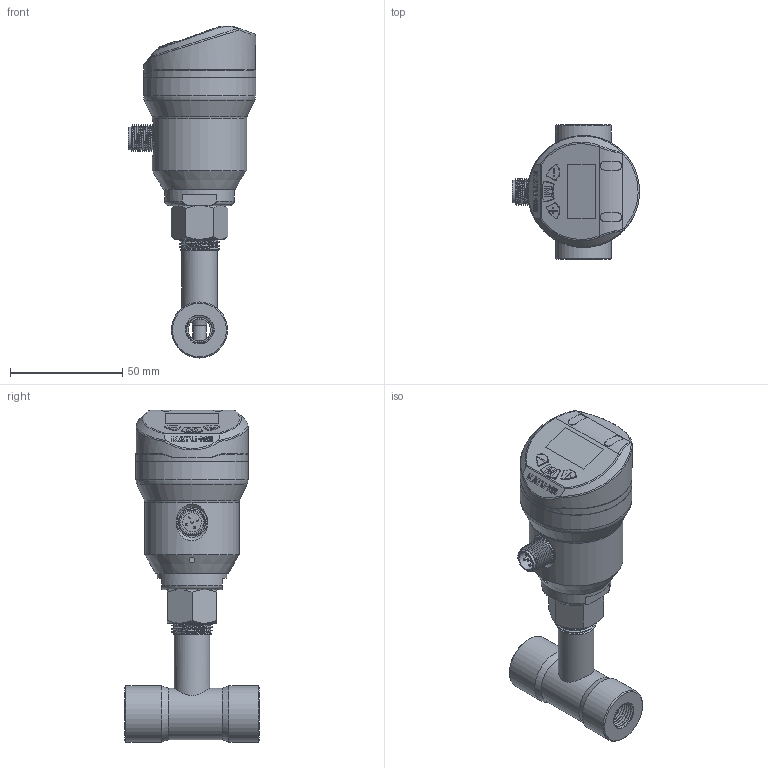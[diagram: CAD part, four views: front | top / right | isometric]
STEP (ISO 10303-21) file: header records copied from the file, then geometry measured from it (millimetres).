
FILE_DESCRIPTION( (''), '2;1');
FILE_NAME( 'QEKE_M18_L60_G1-4_tee.step', '2026-06-25T11:19:03+08:00', (''), (''), '', '', '');
FILE_SCHEMA (('AP203_CONFIGURATION_CONTROLLED_3D_DESIGN_OF_MECHANICAL_PARTS_AND_ASSEMBLIES_MIM_LF { 1 0 10303 403 2 1 2}'));
Length unit declared in the file: millimetre
Products named in the file (1): QEKE M18_L60_G1-4_tee
Bounding box: 56.7 x 60 x 148.11 mm (x, y, z)
Volume: 120223.4 mm3; surface area: 46420.4 mm2
Topology: 11 solids, 13 shells, 640 faces, 1596 edges, 1029 vertices
Faces by surface type: plane 327, cylinder 150, cone 63, bspline 57, torus 33, sphere 10
Full cylindrical faces by diameter (mm): 1 x10, 2.5 x1, 2.7 x5, 3.1 x1, 3.5 x2, 6 x2, 6.5 x1, 8 x1, 8.4 x1, 9.7 x1, 9.8 x1, 10 x2, 10.1 x1, 10.2 x1, 11 x2, 11.6 x1, 12 x2, 13.4 x1, 13.7 x1, 15 x2, 15.4 x1, 16 x1, 16.1 x1, 16.5 x6, 23 x1, 25 x2, 31 x1, 42 x1, 48 x1, 50 x3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
Entity records: 27468 total; most frequent: CARTESIAN_POINT 12565, ORIENTED_EDGE 2830, DIRECTION 2770, EDGE_CURVE 1415, AXIS2_PLACEMENT_3D 1010, VERTEX_POINT 959, EDGE_LOOP 798, LINE 750
